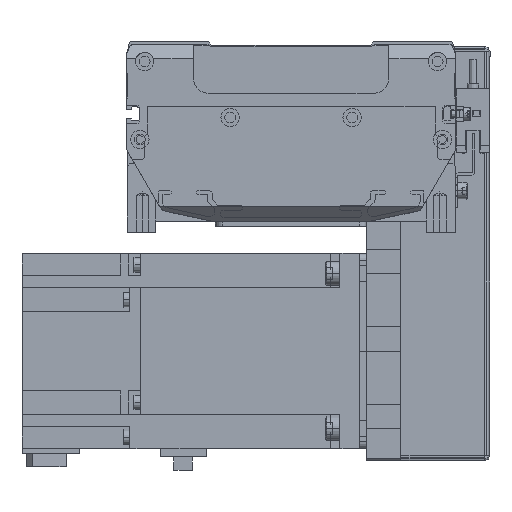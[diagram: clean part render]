
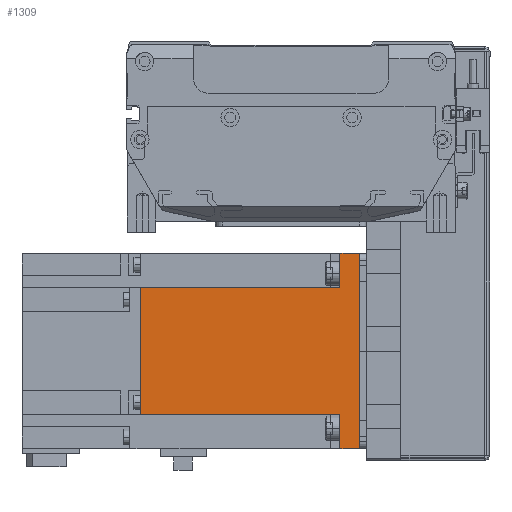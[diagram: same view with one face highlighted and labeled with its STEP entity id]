
A CAD part, front view. The second image highlights one B-rep face of the part: STEP entity #1309.
In plain terms, the highlighted planar face has unit normal (0, -1, 0) as drawn and (0, 0, -1) by its records, which use the part's own axes.
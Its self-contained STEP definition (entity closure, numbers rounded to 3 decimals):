
#447 = ORIENTED_EDGE ( 'NONE', *, *, #35374, .F. ) ;
#1309 = ADVANCED_FACE ( 'NONE', ( #31933 ), #2188, .F. ) ;
#2188 = PLANE ( 'NONE',  #42502 ) ;
#3071 = VECTOR ( 'NONE', #34728, 1000. ) ;
#7154 = VECTOR ( 'NONE', #50033, 1000. ) ;
#9298 = CARTESIAN_POINT ( 'NONE',  ( 25.95, 8., -40. ) ) ;
#9963 = ORIENTED_EDGE ( 'NONE', *, *, #47177, .F. ) ;
#10634 = LINE ( 'NONE', #13705, #27333 ) ;
#11056 = LINE ( 'NONE', #26175, #3071 ) ;
#12057 = CARTESIAN_POINT ( 'NONE',  ( 0., 0., -40. ) ) ;
#13705 = CARTESIAN_POINT ( 'NONE',  ( 25.95, 89.8, -40. ) ) ;
#13840 = CARTESIAN_POINT ( 'NONE',  ( 40., 0., -40. ) ) ;
#15683 = DIRECTION ( 'NONE',  ( -1., 0., 0. ) ) ;
#16622 = DIRECTION ( 'NONE',  ( 0., 1., 0. ) ) ;
#17319 = VECTOR ( 'NONE', #22951, 1000. ) ;
#17421 = CARTESIAN_POINT ( 'NONE',  ( -40., 0., -40. ) ) ;
#18618 = ORIENTED_EDGE ( 'NONE', *, *, #38214, .F. ) ;
#18986 = LINE ( 'NONE', #49925, #24308 ) ;
#20489 = CARTESIAN_POINT ( 'NONE',  ( 40., 8., -40. ) ) ;
#21804 = VECTOR ( 'NONE', #46533, 1000. ) ;
#21893 = VERTEX_POINT ( 'NONE', #49919 ) ;
#22951 = DIRECTION ( 'NONE',  ( 0., 1., 0. ) ) ;
#23184 = CARTESIAN_POINT ( 'NONE',  ( 40., 89.8, -40. ) ) ;
#24084 = EDGE_LOOP ( 'NONE', ( #36263, #18618, #38561, #42060, #9963, #31150, #447, #40781 ) ) ;
#24308 = VECTOR ( 'NONE', #15683, 1000. ) ;
#25860 = DIRECTION ( 'NONE',  ( 0., 1., 0. ) ) ;
#26175 = CARTESIAN_POINT ( 'NONE',  ( -25.95, 89.8, -40. ) ) ;
#27333 = VECTOR ( 'NONE', #25860, 1000. ) ;
#27675 = VERTEX_POINT ( 'NONE', #28941 ) ;
#27716 = DIRECTION ( 'NONE',  ( 0., 0., 1. ) ) ;
#28941 = CARTESIAN_POINT ( 'NONE',  ( -25.95, 89.8, -40. ) ) ;
#29551 = CARTESIAN_POINT ( 'NONE',  ( 40., 8., -40. ) ) ;
#31150 = ORIENTED_EDGE ( 'NONE', *, *, #46227, .F. ) ;
#31758 = DIRECTION ( 'NONE',  ( 1., 0., 0. ) ) ;
#31933 = FACE_OUTER_BOUND ( 'NONE', #24084, .T. ) ;
#32004 = VECTOR ( 'NONE', #16622, 1000. ) ;
#32220 = VERTEX_POINT ( 'NONE', #29551 ) ;
#32796 = EDGE_CURVE ( 'NONE', #40712, #52862, #41992, .T. ) ;
#34277 = EDGE_CURVE ( 'NONE', #32220, #41422, #43840, .T. ) ;
#34580 = EDGE_CURVE ( 'NONE', #38167, #40712, #43788, .T. ) ;
#34728 = DIRECTION ( 'NONE',  ( 0., -1., 0. ) ) ;
#35122 = CARTESIAN_POINT ( 'NONE',  ( -40., 8., -40. ) ) ;
#35374 = EDGE_CURVE ( 'NONE', #49843, #27675, #48455, .T. ) ;
#36263 = ORIENTED_EDGE ( 'NONE', *, *, #34277, .F. ) ;
#36796 = CARTESIAN_POINT ( 'NONE',  ( 25.95, 89.8, -40. ) ) ;
#37492 = EDGE_CURVE ( 'NONE', #41422, #49843, #10634, .T. ) ;
#38167 = VERTEX_POINT ( 'NONE', #13840 ) ;
#38214 = EDGE_CURVE ( 'NONE', #38167, #32220, #40697, .T. ) ;
#38561 = ORIENTED_EDGE ( 'NONE', *, *, #34580, .T. ) ;
#40697 = LINE ( 'NONE', #44741, #17319 ) ;
#40712 = VERTEX_POINT ( 'NONE', #17421 ) ;
#40781 = ORIENTED_EDGE ( 'NONE', *, *, #37492, .F. ) ;
#41422 = VERTEX_POINT ( 'NONE', #9298 ) ;
#41992 = LINE ( 'NONE', #54411, #32004 ) ;
#42060 = ORIENTED_EDGE ( 'NONE', *, *, #32796, .T. ) ;
#42502 = AXIS2_PLACEMENT_3D ( 'NONE', #23184, #27716, #31758 ) ;
#43386 = CARTESIAN_POINT ( 'NONE',  ( 40., 89.8, -40. ) ) ;
#43788 = LINE ( 'NONE', #12057, #7154 ) ;
#43840 = LINE ( 'NONE', #20489, #21804 ) ;
#44741 = CARTESIAN_POINT ( 'NONE',  ( 40., 89.8, -40. ) ) ;
#46227 = EDGE_CURVE ( 'NONE', #27675, #21893, #11056, .T. ) ;
#46533 = DIRECTION ( 'NONE',  ( -1., 0., 0. ) ) ;
#47088 = DIRECTION ( 'NONE',  ( -1., 0., 0. ) ) ;
#47177 = EDGE_CURVE ( 'NONE', #21893, #52862, #18986, .T. ) ;
#48455 = LINE ( 'NONE', #43386, #55148 ) ;
#49843 = VERTEX_POINT ( 'NONE', #36796 ) ;
#49919 = CARTESIAN_POINT ( 'NONE',  ( -25.95, 8., -40. ) ) ;
#49925 = CARTESIAN_POINT ( 'NONE',  ( 40., 8., -40. ) ) ;
#50033 = DIRECTION ( 'NONE',  ( -1., 0., 0. ) ) ;
#52862 = VERTEX_POINT ( 'NONE', #35122 ) ;
#54411 = CARTESIAN_POINT ( 'NONE',  ( -40., 89.8, -40. ) ) ;
#55148 = VECTOR ( 'NONE', #47088, 1000. ) ;
